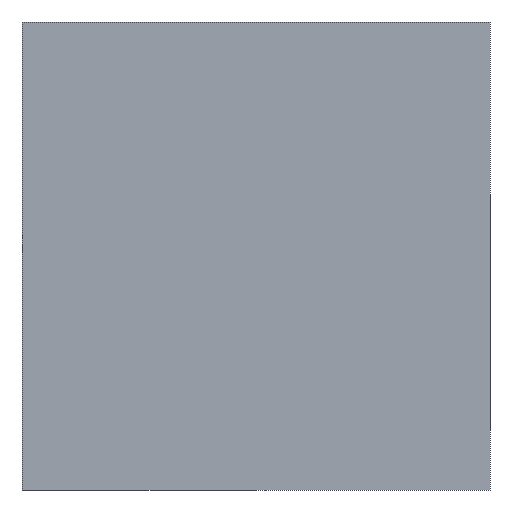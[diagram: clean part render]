
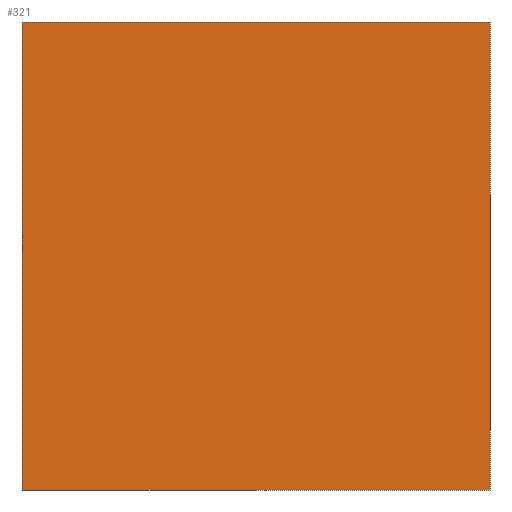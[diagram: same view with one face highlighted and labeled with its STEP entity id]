
A CAD part, left-side view. The second image highlights one B-rep face of the part: STEP entity #321.
In plain terms, the highlighted planar face has unit normal (-1, 0, 0).
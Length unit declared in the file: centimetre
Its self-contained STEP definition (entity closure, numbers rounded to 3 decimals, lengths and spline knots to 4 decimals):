
#3 = VERTEX_POINT ( 'NONE', #406 ) ;
#4 = CARTESIAN_POINT ( 'NONE',  ( 0., 0., 1000. ) ) ;
#5 = ORIENTED_EDGE ( 'NONE', *, *, #227, .F. ) ;
#37 = EDGE_CURVE ( 'NONE', #388, #169, #144, .T. ) ;
#48 = AXIS2_PLACEMENT_3D ( 'NONE', #143, #379, #293 ) ;
#80 = CARTESIAN_POINT ( 'NONE',  ( 0., 0., 0. ) ) ;
#127 = VERTEX_POINT ( 'NONE', #80 ) ;
#129 = ORIENTED_EDGE ( 'NONE', *, *, #167, .T. ) ;
#130 = LINE ( 'NONE', #284, #141 ) ;
#141 = VECTOR ( 'NONE', #450, 100. ) ;
#143 = CARTESIAN_POINT ( 'NONE',  ( 0., 1000., 1000. ) ) ;
#144 = LINE ( 'NONE', #299, #178 ) ;
#167 = EDGE_CURVE ( 'NONE', #388, #3, #206, .T. ) ;
#169 = VERTEX_POINT ( 'NONE', #4 ) ;
#178 = VECTOR ( 'NONE', #464, 100. ) ;
#179 = LINE ( 'NONE', #461, #499 ) ;
#180 = PLANE ( 'NONE',  #48 ) ;
#206 = LINE ( 'NONE', #478, #294 ) ;
#216 = FACE_OUTER_BOUND ( 'NONE', #233, .T. ) ;
#227 = EDGE_CURVE ( 'NONE', #169, #127, #130, .T. ) ;
#233 = EDGE_LOOP ( 'NONE', ( #246, #5, #277, #129 ) ) ;
#246 = ORIENTED_EDGE ( 'NONE', *, *, #413, .T. ) ;
#277 = ORIENTED_EDGE ( 'NONE', *, *, #37, .F. ) ;
#284 = CARTESIAN_POINT ( 'NONE',  ( 0., 0., 1000. ) ) ;
#293 = DIRECTION ( 'NONE',  ( 0., 0., -1. ) ) ;
#294 = VECTOR ( 'NONE', #361, 100. ) ;
#299 = CARTESIAN_POINT ( 'NONE',  ( 0., 1000., 1000. ) ) ;
#321 = ADVANCED_FACE ( 'NONE', ( #216 ), #180, .F. ) ;
#361 = DIRECTION ( 'NONE',  ( 0., 0., -1. ) ) ;
#379 = DIRECTION ( 'NONE',  ( 1., 0., 0. ) ) ;
#388 = VERTEX_POINT ( 'NONE', #455 ) ;
#406 = CARTESIAN_POINT ( 'NONE',  ( 0., 1000., 0. ) ) ;
#413 = EDGE_CURVE ( 'NONE', #3, #127, #179, .T. ) ;
#419 = DIRECTION ( 'NONE',  ( 0., -1., 0. ) ) ;
#450 = DIRECTION ( 'NONE',  ( 0., 0., -1. ) ) ;
#455 = CARTESIAN_POINT ( 'NONE',  ( 0., 1000., 1000. ) ) ;
#461 = CARTESIAN_POINT ( 'NONE',  ( 0., 1000., 0. ) ) ;
#464 = DIRECTION ( 'NONE',  ( 0., -1., 0. ) ) ;
#478 = CARTESIAN_POINT ( 'NONE',  ( 0., 1000., 1000. ) ) ;
#499 = VECTOR ( 'NONE', #419, 100. ) ;
